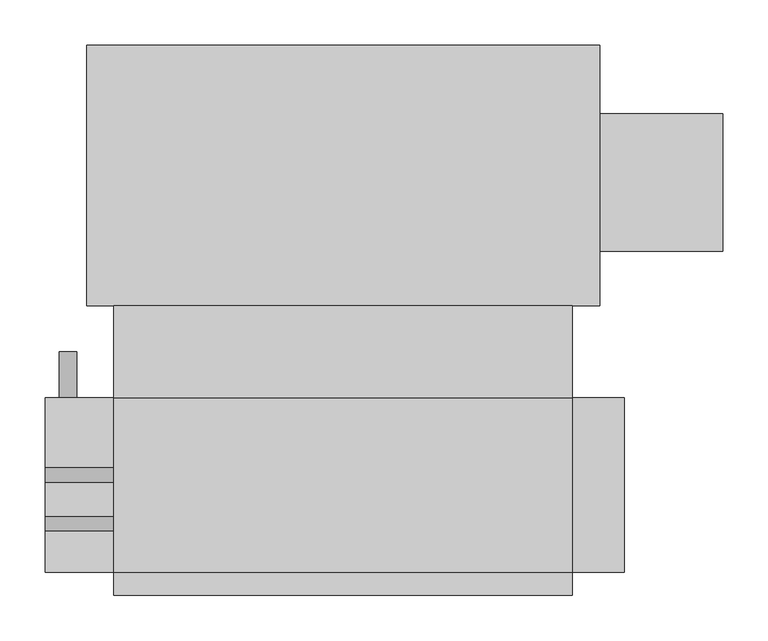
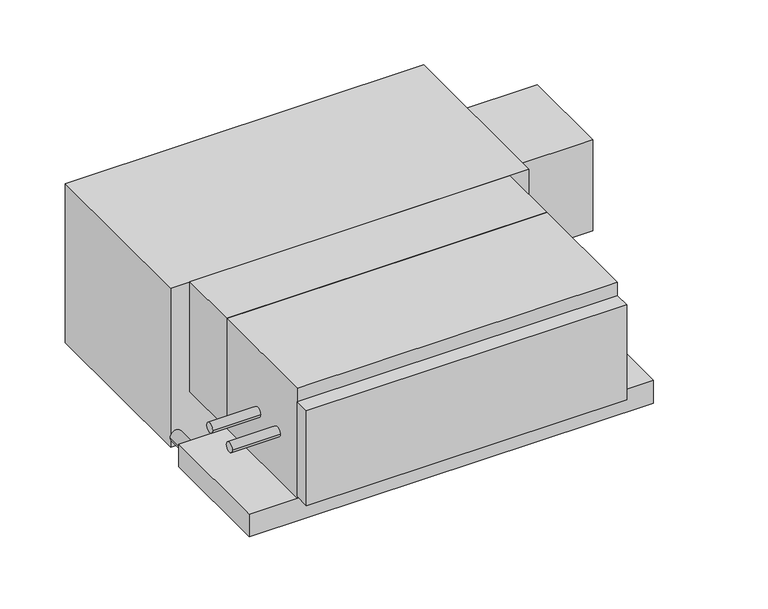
"""IFC4 building model written with IfcOpenShell, lengths in millimetres: proxy geometry, Concealed_Horizontal_Fan_Coil_Unit_With_Plenum_-_42CEA_-_CARRIER_-_2-Pipe_Cool-EHeat_LH_2022 : Size 03 - 277v/60Hz/1Ph - 4 Row 3.0kW."""

from ifc_helpers import new_model, si_unit, point, frame, frame_2d, origin, place, context, project, spatial, polyline, circle_curve, trimmed, segment, composite_curve, outline, extrude, source, transform, mapped, element, save


def mechanical_equipment_f801dd8a(model_context):
    return source(origin(), model_context, "Body", "SweptSolid", [
        extrude(outline(composite_curve([segment(trimmed(circle_curve(frame_2d((-280.9875, -104.775)), 7.9375), [point((-288.925, -104.775))], [point((-273.05, -104.775))], False, "CARTESIAN"), True, "CONTINUOUS"), segment(trimmed(circle_curve(frame_2d((-280.9875, -104.775)), 7.9375), [point((-273.05, -104.775))], [point((-288.925, -104.775))], False, "CARTESIAN"), True, "CONTINUOUS")], self_intersect=False)), frame((-177.8, 0.0, 0.0), z_axis=(1.0, 0.0, 0.0), x_axis=(0.0, 1.0, 0.0)), (0.0, 0.0, 1.0), 76.2),
        extrude(outline(composite_curve([segment(trimmed(circle_curve(frame_2d((-227.0125, -104.775)), 7.9375), [point((-234.95, -104.775))], [point((-219.075, -104.775))], False, "CARTESIAN"), True, "CONTINUOUS"), segment(trimmed(circle_curve(frame_2d((-227.0125, -104.775)), 7.9375), [point((-219.075, -104.775))], [point((-234.95, -104.775))], False, "CARTESIAN"), True, "CONTINUOUS")], self_intersect=False)), frame((-177.8, 0.0, 0.0), z_axis=(1.0, 0.0, 0.0), x_axis=(0.0, 1.0, 0.0)), (0.0, 0.0, 1.0), 76.2),
        extrude(outline(composite_curve([segment(trimmed(circle_curve(frame_2d((-209.55, -152.4)), 9.525), [point((-209.55, -161.925))], [point((-209.55, -142.875))], False, "CARTESIAN"), True, "CONTINUOUS"), segment(trimmed(circle_curve(frame_2d((-209.55, -152.4)), 9.525), [point((-209.55, -142.875))], [point((-209.55, -161.925))], False, "CARTESIAN"), True, "CONTINUOUS")], self_intersect=False)), frame((0.0, -141.2875, 0.0), z_axis=(0.0, 1.0, 0.0), x_axis=(0.0, 0.0, 1.0)), (0.0, 0.0, 1.0), 50.8),
        extrude(outline(polyline([(-101.6, -39.6875), (406.4, -39.6875), (406.4, -141.2875), (-101.6, -141.2875), (-101.6, -39.6875)])), frame((0.0, 0.0, -184.15), z_axis=(0.0, 0.0, 1.0), x_axis=(1.0, 0.0, 0.0)), (0.0, 0.0, 1.0), 184.15),
        extrude(outline(polyline([(406.4, -360.3625), (-101.6, -360.3625), (-101.6, -334.9625), (406.4, -334.9625), (406.4, -360.3625)])), frame((0.0, 0.0, -180.975), z_axis=(0.0, 0.0, 1.0), x_axis=(1.0, 0.0, 0.0)), (0.0, 0.0, 1.0), 158.75),
        extrude(outline(polyline([(573.0875, 173.0375), (573.0875, 20.6375), (436.5625, 20.6375), (436.5625, 173.0375), (573.0875, 173.0375)])), frame((0.0, 0.0, -187.325), z_axis=(0.0, 0.0, 1.0), x_axis=(1.0, 0.0, 0.0)), (0.0, 0.0, 1.0), 152.4),
        extrude(outline(polyline([(-131.7625, 249.2375), (436.5625, 249.2375), (436.5625, -39.6875), (-131.7625, -39.6875), (-131.7625, 249.2375)])), frame((0.0, 0.0, -266.7), z_axis=(0.0, 0.0, 1.0), x_axis=(1.0, 0.0, 0.0)), (0.0, 0.0, 1.0), 266.7),
        extrude(outline(polyline([(406.4, -141.2875), (406.4, -334.9625), (-101.6, -334.9625), (-101.6, -141.2875), (406.4, -141.2875)])), frame((0.0, 0.0, -184.15), z_axis=(0.0, 0.0, 1.0), x_axis=(1.0, 0.0, 0.0)), (0.0, 0.0, 1.0), 184.15),
        extrude(outline(polyline([(463.55, -141.2875), (463.55, -334.9625), (-177.8, -334.9625), (-177.8, -141.2875), (463.55, -141.2875)])), frame((0.0, 0.0, -222.25), z_axis=(0.0, 0.0, 1.0), x_axis=(1.0, 0.0, 0.0)), (0.0, 0.0, 1.0), 38.1),
    ])


if __name__ == "__main__":
    model = new_model("IFC4")
    model_context = context("Model", 3, world=origin())
    ifc_project = project(units=[si_unit("LENGTHUNIT", "METRE", prefix="MILLI")], contexts=[model_context])
    site = spatial("IfcSite", under=ifc_project)
    building = spatial("IfcBuilding", under=site)
    placement = place(None, origin())
    mechanical_equipment_shape = mechanical_equipment_f801dd8a(model_context)
    element("IfcBuildingElementProxy", 1, Name="Concealed_Horizontal_Fan_Coil_Unit_With_Plenum_-_42CEA_-_CARRIER_-_2-Pipe_Cool-EHeat_LH_2022 : Size 03 - 277v/60Hz/1Ph - 4 Row 3.0kW", ObjectType="Concealed_Horizontal_Fan_Coil_Unit_With_Plenum_-_42CEA_-_CARRIER_-_2-Pipe_Cool-EHeat_LH_2022 : Size 03 - 277v/60Hz/1Ph - 4 Row 3.0kW", at=placement, inside=building, context=model_context, shape_type="MappedRepresentation", body=[
        mapped(mechanical_equipment_shape, transform((0.0, 0.0, 0.0), x_axis=(1.0, 0.0, 0.0), y_axis=(0.0, 1.0, 0.0), z_axis=(0.0, 0.0, 1.0))),
    ])
    save(model, "model.ifc")
